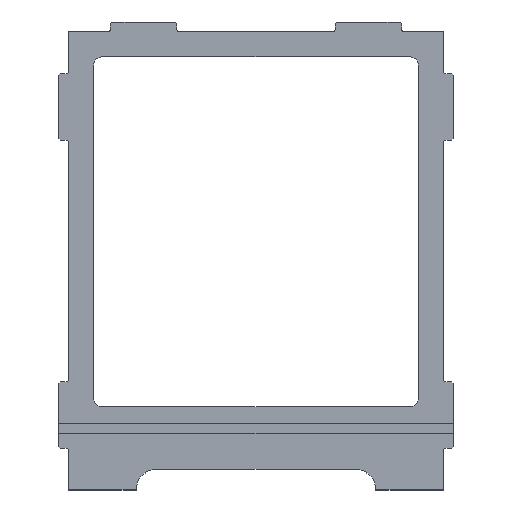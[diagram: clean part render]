
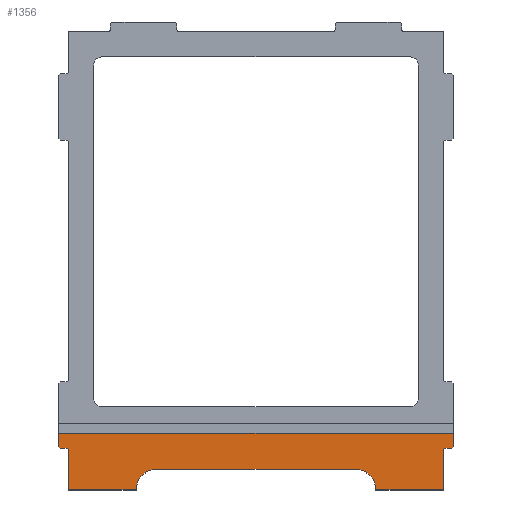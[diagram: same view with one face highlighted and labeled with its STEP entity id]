
A CAD part, top view. The second image highlights one B-rep face of the part: STEP entity #1356.
In plain terms, the highlighted planar face has unit normal (0, 0, 1).
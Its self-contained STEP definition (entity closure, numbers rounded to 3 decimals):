
#48=CIRCLE($,#1441,25.);
#50=CIRCLE($,#1445,25.);
#52=CIRCLE($,#1448,3.);
#53=CIRCLE($,#1449,3.);
#78=FACE_OUTER_BOUND($,#149,.T.);
#149=EDGE_LOOP($,(#972,#973,#974,#975,#976,#977,#978,#979,#980,#981,#982,
#983,#984,#985,#986,#987));
#215=LINE($,#1918,#383);
#226=LINE($,#1940,#394);
#265=LINE($,#2052,#433);
#269=LINE($,#2064,#437);
#270=LINE($,#2066,#438);
#271=LINE($,#2070,#439);
#272=LINE($,#2071,#440);
#273=LINE($,#2073,#441);
#274=LINE($,#2075,#442);
#275=LINE($,#2079,#443);
#276=LINE($,#2081,#444);
#277=LINE($,#2082,#445);
#383=VECTOR($,#1534,474.);
#394=VECTOR($,#1551,15.9);
#433=VECTOR($,#1628,238.);
#437=VECTOR($,#1640,2.828);
#438=VECTOR($,#1641,7.);
#439=VECTOR($,#1644,47.);
#440=VECTOR($,#1645,81.);
#441=VECTOR($,#1646,81.);
#442=VECTOR($,#1647,47.);
#443=VECTOR($,#1650,7.);
#444=VECTOR($,#1651,2.828);
#445=VECTOR($,#1652,15.9);
#549=VERTEX_POINT($,#1912);
#551=VERTEX_POINT($,#1916);
#559=VERTEX_POINT($,#1938);
#609=VERTEX_POINT($,#2042);
#610=VERTEX_POINT($,#2043);
#613=VERTEX_POINT($,#2051);
#615=VERTEX_POINT($,#2057);
#617=VERTEX_POINT($,#2063);
#618=VERTEX_POINT($,#2065);
#619=VERTEX_POINT($,#2067);
#620=VERTEX_POINT($,#2069);
#621=VERTEX_POINT($,#2072);
#622=VERTEX_POINT($,#2074);
#623=VERTEX_POINT($,#2076);
#624=VERTEX_POINT($,#2078);
#625=VERTEX_POINT($,#2080);
#687=EDGE_CURVE($,#549,#551,#215,.T.);
#698=EDGE_CURVE($,#551,#559,#226,.T.);
#749=EDGE_CURVE($,#609,#610,#48,.T.);
#753=EDGE_CURVE($,#613,#610,#265,.T.);
#756=EDGE_CURVE($,#613,#615,#50,.T.);
#759=EDGE_CURVE($,#617,#559,#269,.T.);
#760=EDGE_CURVE($,#617,#618,#270,.T.);
#761=EDGE_CURVE($,#619,#618,#52,.T.);
#762=EDGE_CURVE($,#619,#620,#271,.T.);
#763=EDGE_CURVE($,#620,#615,#272,.T.);
#764=EDGE_CURVE($,#609,#621,#273,.T.);
#765=EDGE_CURVE($,#621,#622,#274,.T.);
#766=EDGE_CURVE($,#623,#622,#53,.T.);
#767=EDGE_CURVE($,#623,#624,#275,.T.);
#768=EDGE_CURVE($,#625,#624,#276,.T.);
#769=EDGE_CURVE($,#625,#549,#277,.T.);
#972=ORIENTED_EDGE($,*,*,#687,.T.);
#973=ORIENTED_EDGE($,*,*,#698,.T.);
#974=ORIENTED_EDGE($,*,*,#759,.F.);
#975=ORIENTED_EDGE($,*,*,#760,.T.);
#976=ORIENTED_EDGE($,*,*,#761,.F.);
#977=ORIENTED_EDGE($,*,*,#762,.T.);
#978=ORIENTED_EDGE($,*,*,#763,.T.);
#979=ORIENTED_EDGE($,*,*,#756,.F.);
#980=ORIENTED_EDGE($,*,*,#753,.T.);
#981=ORIENTED_EDGE($,*,*,#749,.F.);
#982=ORIENTED_EDGE($,*,*,#764,.T.);
#983=ORIENTED_EDGE($,*,*,#765,.T.);
#984=ORIENTED_EDGE($,*,*,#766,.F.);
#985=ORIENTED_EDGE($,*,*,#767,.T.);
#986=ORIENTED_EDGE($,*,*,#768,.F.);
#987=ORIENTED_EDGE($,*,*,#769,.T.);
#1302=PLANE($,#1447);
#1356=ADVANCED_FACE($,(#78),#1302,.T.);
#1441=AXIS2_PLACEMENT_3D($,#2044,#1620,#1621);
#1445=AXIS2_PLACEMENT_3D($,#2058,#1633,#1634);
#1447=AXIS2_PLACEMENT_3D($,#2062,#1638,#1639);
#1448=AXIS2_PLACEMENT_3D($,#2068,#1642,#1643);
#1449=AXIS2_PLACEMENT_3D($,#2077,#1648,#1649);
#1534=DIRECTION($,(-1.,0.,0.));
#1551=DIRECTION($,(0.,-1.,0.));
#1620=DIRECTION('center_axis',(0.,0.,1.));
#1621=DIRECTION('ref_axis',(0.707,0.707,0.));
#1628=DIRECTION($,(1.,0.,0.));
#1633=DIRECTION('center_axis',(0.,0.,1.));
#1634=DIRECTION('ref_axis',(-0.707,0.707,0.));
#1638=DIRECTION('center_axis',(0.,0.,1.));
#1639=DIRECTION('ref_axis',(1.,0.,0.));
#1640=DIRECTION($,(-0.707,0.707,0.));
#1641=DIRECTION($,(1.,0.,0.));
#1642=DIRECTION('center_axis',(0.,0.,1.));
#1643=DIRECTION('ref_axis',(0.707,0.707,0.));
#1644=DIRECTION($,(0.,-1.,0.));
#1645=DIRECTION($,(1.,0.,0.));
#1646=DIRECTION($,(1.,0.,0.));
#1647=DIRECTION($,(0.,1.,0.));
#1648=DIRECTION('center_axis',(0.,0.,1.));
#1649=DIRECTION('ref_axis',(-0.707,0.707,0.));
#1650=DIRECTION($,(1.,0.,0.));
#1651=DIRECTION($,(-0.707,-0.707,0.));
#1652=DIRECTION($,(0.,1.,0.));
#1912=CARTESIAN_POINT('',(237.,-207.1,12.));
#1916=CARTESIAN_POINT('',(-237.,-207.1,12.));
#1918=CARTESIAN_POINT($,(129.247,-207.1,12.));
#1938=CARTESIAN_POINT('',(-237.,-223.,12.));
#1940=CARTESIAN_POINT($,(-237.,-145.,12.));
#2042=CARTESIAN_POINT('',(144.,-275.,12.));
#2043=CARTESIAN_POINT('',(119.,-250.,12.));
#2044=CARTESIAN_POINT('Origin',(119.,-275.,12.));
#2051=CARTESIAN_POINT('',(-119.,-250.,12.));
#2052=CARTESIAN_POINT($,(-72.,-250.,12.));
#2057=CARTESIAN_POINT('',(-144.,-275.,12.));
#2058=CARTESIAN_POINT('Origin',(-119.,-275.,12.));
#2062=CARTESIAN_POINT('Origin',(0.,0.,12.));
#2063=CARTESIAN_POINT('',(-235.,-225.,12.));
#2064=CARTESIAN_POINT($,(-233.,-227.,12.));
#2065=CARTESIAN_POINT('',(-228.,-225.,12.));
#2066=CARTESIAN_POINT($,(-237.,-225.,12.));
#2067=CARTESIAN_POINT('',(-225.,-228.,12.));
#2068=CARTESIAN_POINT('Origin',(-228.,-228.,12.));
#2069=CARTESIAN_POINT('',(-225.,-275.,12.));
#2070=CARTESIAN_POINT($,(-225.,-275.,12.));
#2071=CARTESIAN_POINT($,(225.,-275.,12.));
#2072=CARTESIAN_POINT('',(225.,-275.,12.));
#2073=CARTESIAN_POINT($,(225.,-275.,12.));
#2074=CARTESIAN_POINT('',(225.,-228.,12.));
#2075=CARTESIAN_POINT($,(225.,275.,12.));
#2076=CARTESIAN_POINT('',(228.,-225.,12.));
#2077=CARTESIAN_POINT('Origin',(228.,-228.,12.));
#2078=CARTESIAN_POINT('',(235.,-225.,12.));
#2079=CARTESIAN_POINT($,(225.,-225.,12.));
#2080=CARTESIAN_POINT('',(237.,-223.,12.));
#2081=CARTESIAN_POINT($,(233.,-227.,12.));
#2082=CARTESIAN_POINT($,(237.,-225.,12.));
